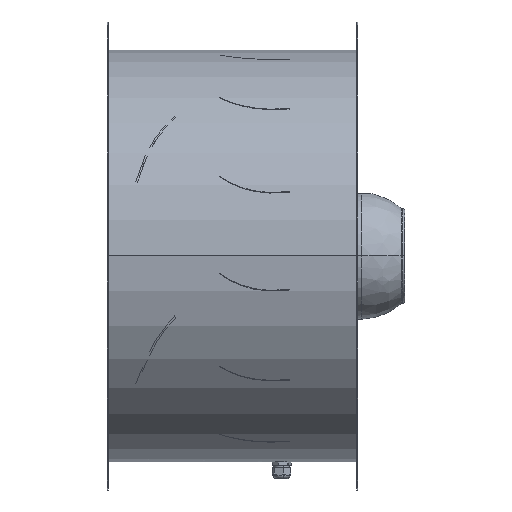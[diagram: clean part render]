
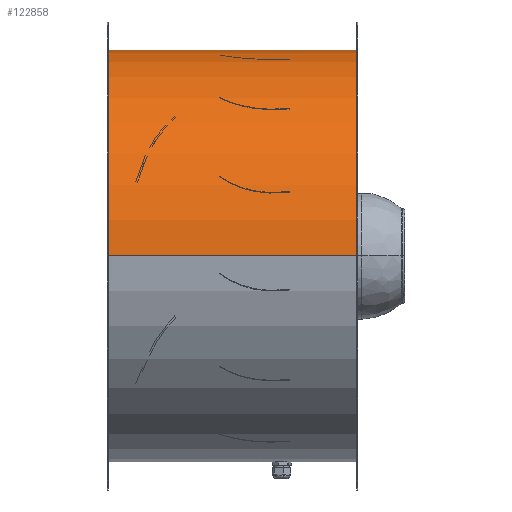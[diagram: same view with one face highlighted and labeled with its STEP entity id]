
A CAD part, top view. The second image highlights one B-rep face of the part: STEP entity #122858.
In plain terms, the highlighted cylindrical face has radius 356.5 mm (diameter 713 mm), a partial arc.
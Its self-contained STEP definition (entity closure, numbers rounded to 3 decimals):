
#1942 = AXIS2_PLACEMENT_3D ( 'NONE', #498848, #229232, #544152 ) ;
#24721 = ORIENTED_EDGE ( 'NONE', *, *, #456535, .T. ) ;
#40124 = CARTESIAN_POINT ( 'NONE',  ( 257.5, 3.013, -356.487 ) ) ;
#41329 = CARTESIAN_POINT ( 'NONE',  ( -170.25, 0., 356.5 ) ) ;
#48418 = AXIS2_PLACEMENT_3D ( 'NONE', #354650, #85176, #399921 ) ;
#56286 = ORIENTED_EDGE ( 'NONE', *, *, #79602, .F. ) ;
#59419 = VECTOR ( 'NONE', #332163, 1000. ) ;
#79602 = EDGE_CURVE ( 'NONE', #583280, #531806, #174432, .T. ) ;
#79718 = LINE ( 'NONE', #270329, #93872 ) ;
#82183 = CARTESIAN_POINT ( 'NONE',  ( 258.25, 0., 356.5 ) ) ;
#82398 = LINE ( 'NONE', #252894, #202126 ) ;
#83146 = ORIENTED_EDGE ( 'NONE', *, *, #230782, .F. ) ;
#85176 = DIRECTION ( 'NONE',  ( 1., 0., 0. ) ) ;
#93872 = VECTOR ( 'NONE', #406087, 1000. ) ;
#93892 = VECTOR ( 'NONE', #311475, 1000. ) ;
#102826 = CYLINDRICAL_SURFACE ( 'NONE', #129716, 356.5 ) ;
#105948 = DIRECTION ( 'NONE',  ( 1., 0., 0. ) ) ;
#122858 = ADVANCED_FACE ( 'NONE', ( #222477 ), #102826, .T. ) ;
#129716 = AXIS2_PLACEMENT_3D ( 'NONE', #164690, #524831, #566206 ) ;
#135091 = EDGE_CURVE ( 'NONE', #439120, #583280, #79718, .T. ) ;
#147835 = CARTESIAN_POINT ( 'NONE',  ( 258.25, 0., -356.5 ) ) ;
#161685 = CIRCLE ( 'NONE', #48418, 356.5 ) ;
#164690 = CARTESIAN_POINT ( 'NONE',  ( -169.5, 0., 0. ) ) ;
#174432 = CIRCLE ( 'NONE', #485804, 356.5 ) ;
#175728 = CARTESIAN_POINT ( 'NONE',  ( -169.5, 3.013, -356.487 ) ) ;
#179077 = LINE ( 'NONE', #286911, #59419 ) ;
#182425 = CIRCLE ( 'NONE', #1942, 356.5 ) ;
#202126 = VECTOR ( 'NONE', #567773, 1000. ) ;
#222477 = FACE_OUTER_BOUND ( 'NONE', #420607, .T. ) ;
#228612 = CARTESIAN_POINT ( 'NONE',  ( -170.25, 0., 0. ) ) ;
#229232 = DIRECTION ( 'NONE',  ( 1., 0., 0. ) ) ;
#230782 = EDGE_CURVE ( 'NONE', #437227, #307549, #179077, .T. ) ;
#249629 = CARTESIAN_POINT ( 'NONE',  ( -170.25, 0., -356.5 ) ) ;
#252894 = CARTESIAN_POINT ( 'NONE',  ( -169.5, 0., 356.5 ) ) ;
#270329 = CARTESIAN_POINT ( 'NONE',  ( -169.5, 0., -356.5 ) ) ;
#273859 = DIRECTION ( 'NONE',  ( 0., 0., 1. ) ) ;
#286911 = CARTESIAN_POINT ( 'NONE',  ( -169.5, 0., -356.5 ) ) ;
#307549 = VERTEX_POINT ( 'NONE', #521108 ) ;
#311475 = DIRECTION ( 'NONE',  ( 1., 0., 0. ) ) ;
#323056 = ORIENTED_EDGE ( 'NONE', *, *, #516182, .F. ) ;
#331156 = AXIS2_PLACEMENT_3D ( 'NONE', #228612, #543532, #273859 ) ;
#332163 = DIRECTION ( 'NONE',  ( 1., 0., 0. ) ) ;
#354650 = CARTESIAN_POINT ( 'NONE',  ( 257.5, 0., 0. ) ) ;
#375437 = CARTESIAN_POINT ( 'NONE',  ( 258.25, 0., 0. ) ) ;
#388861 = EDGE_CURVE ( 'NONE', #307549, #479180, #182425, .T. ) ;
#399921 = DIRECTION ( 'NONE',  ( 0., 0., 1. ) ) ;
#406087 = DIRECTION ( 'NONE',  ( 1., 0., 0. ) ) ;
#420607 = EDGE_LOOP ( 'NONE', ( #83146, #563873, #509612, #56286, #452904, #24721, #323056, #499987 ) ) ;
#420700 = DIRECTION ( 'NONE',  ( 0., 0., 1. ) ) ;
#437227 = VERTEX_POINT ( 'NONE', #249629 ) ;
#439120 = VERTEX_POINT ( 'NONE', #563867 ) ;
#440020 = VERTEX_POINT ( 'NONE', #40124 ) ;
#452904 = ORIENTED_EDGE ( 'NONE', *, *, #135091, .F. ) ;
#456535 = EDGE_CURVE ( 'NONE', #439120, #440020, #161685, .T. ) ;
#468163 = CARTESIAN_POINT ( 'NONE',  ( -169.5, 3.013, -356.487 ) ) ;
#479180 = VERTEX_POINT ( 'NONE', #468163 ) ;
#485804 = AXIS2_PLACEMENT_3D ( 'NONE', #375437, #105948, #420700 ) ;
#486842 = CIRCLE ( 'NONE', #331156, 356.5 ) ;
#493724 = EDGE_CURVE ( 'NONE', #546065, #531806, #82398, .T. ) ;
#498848 = CARTESIAN_POINT ( 'NONE',  ( -169.5, 0., 0. ) ) ;
#499987 = ORIENTED_EDGE ( 'NONE', *, *, #388861, .F. ) ;
#509612 = ORIENTED_EDGE ( 'NONE', *, *, #493724, .T. ) ;
#516182 = EDGE_CURVE ( 'NONE', #479180, #440020, #572699, .T. ) ;
#521108 = CARTESIAN_POINT ( 'NONE',  ( -169.5, 0., -356.5 ) ) ;
#524756 = EDGE_CURVE ( 'NONE', #437227, #546065, #486842, .T. ) ;
#524831 = DIRECTION ( 'NONE',  ( 1., 0., 0. ) ) ;
#531806 = VERTEX_POINT ( 'NONE', #82183 ) ;
#543532 = DIRECTION ( 'NONE',  ( 1., 0., 0. ) ) ;
#544152 = DIRECTION ( 'NONE',  ( 0., 0., 1. ) ) ;
#546065 = VERTEX_POINT ( 'NONE', #41329 ) ;
#563867 = CARTESIAN_POINT ( 'NONE',  ( 257.5, 0., -356.5 ) ) ;
#563873 = ORIENTED_EDGE ( 'NONE', *, *, #524756, .T. ) ;
#566206 = DIRECTION ( 'NONE',  ( 0., 0., 1. ) ) ;
#567773 = DIRECTION ( 'NONE',  ( 1., 0., 0. ) ) ;
#572699 = LINE ( 'NONE', #175728, #93892 ) ;
#583280 = VERTEX_POINT ( 'NONE', #147835 ) ;
